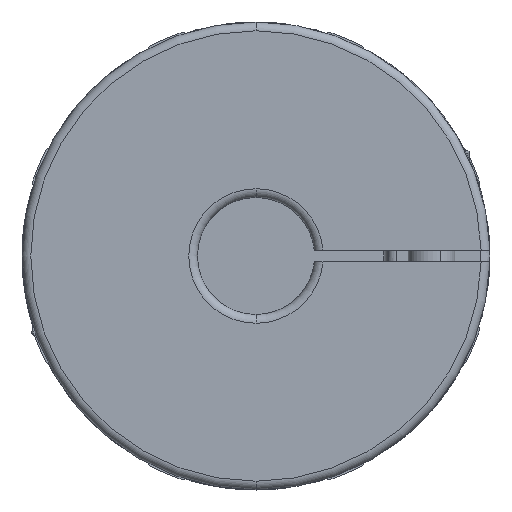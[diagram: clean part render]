
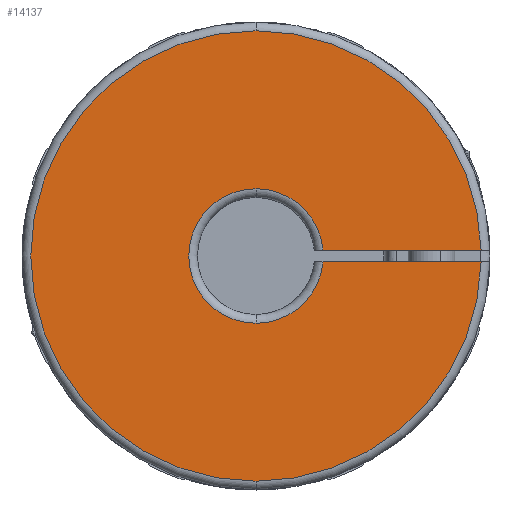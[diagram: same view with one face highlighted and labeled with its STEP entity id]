
A CAD part, left-side view. The second image highlights one B-rep face of the part: STEP entity #14137.
In plain terms, the highlighted planar face has unit normal (-1, 0, 0).
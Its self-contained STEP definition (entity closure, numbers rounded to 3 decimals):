
#254 = CARTESIAN_POINT ( 'NONE',  ( -33.2, 0., 0. ) ) ;
#366 = DIRECTION ( 'NONE',  ( 0., 0., 1. ) ) ;
#533 = CARTESIAN_POINT ( 'NONE',  ( -33.2, 0., -1. ) ) ;
#600 = ORIENTED_EDGE ( 'NONE', *, *, #6773, .T. ) ;
#835 = DIRECTION ( 'NONE',  ( 0., 0., -1. ) ) ;
#937 = AXIS2_PLACEMENT_3D ( 'NONE', #9160, #14123, #9808 ) ;
#967 = VERTEX_POINT ( 'NONE', #15115 ) ;
#970 = AXIS2_PLACEMENT_3D ( 'NONE', #3292, #7050, #835 ) ;
#1219 = VECTOR ( 'NONE', #12914, 1000. ) ;
#1274 = VERTEX_POINT ( 'NONE', #14000 ) ;
#1492 = CIRCLE ( 'NONE', #12943, 38.5 ) ;
#1527 = DIRECTION ( 'NONE',  ( -1., 0., 0. ) ) ;
#1991 = CIRCLE ( 'NONE', #5407, 11.5 ) ;
#2236 = AXIS2_PLACEMENT_3D ( 'NONE', #10162, #1527, #366 ) ;
#2349 = VERTEX_POINT ( 'NONE', #4623 ) ;
#3073 = CARTESIAN_POINT ( 'NONE',  ( -33.2, 0., 38.5 ) ) ;
#3243 = VERTEX_POINT ( 'NONE', #12927 ) ;
#3250 = VERTEX_POINT ( 'NONE', #3073 ) ;
#3292 = CARTESIAN_POINT ( 'NONE',  ( -33.2, 11.5, 0. ) ) ;
#3392 = VERTEX_POINT ( 'NONE', #12630 ) ;
#4209 = DIRECTION ( 'NONE',  ( -1., 0., 0. ) ) ;
#4316 = DIRECTION ( 'NONE',  ( -1., 0., 0. ) ) ;
#4602 = EDGE_LOOP ( 'NONE', ( #12549, #11990, #6137, #600, #9071, #14618, #10553, #12877 ) ) ;
#4623 = CARTESIAN_POINT ( 'NONE',  ( -33.2, 0., -38.5 ) ) ;
#5055 = CIRCLE ( 'NONE', #13895, 38.5 ) ;
#5249 = DIRECTION ( 'NONE',  ( -1., 0., 0. ) ) ;
#5407 = AXIS2_PLACEMENT_3D ( 'NONE', #12783, #6597, #14083 ) ;
#5515 = LINE ( 'NONE', #9173, #1219 ) ;
#5598 = DIRECTION ( 'NONE',  ( 0., 1., 0. ) ) ;
#5722 = DIRECTION ( 'NONE',  ( 0., 0., 1. ) ) ;
#5933 = AXIS2_PLACEMENT_3D ( 'NONE', #15368, #4209, #7214 ) ;
#6008 = EDGE_CURVE ( 'NONE', #3243, #12706, #11695, .T. ) ;
#6137 = ORIENTED_EDGE ( 'NONE', *, *, #10895, .T. ) ;
#6597 = DIRECTION ( 'NONE',  ( -1., 0., 0. ) ) ;
#6773 = EDGE_CURVE ( 'NONE', #3250, #2349, #5055, .T. ) ;
#7050 = DIRECTION ( 'NONE',  ( 1., 0., 0. ) ) ;
#7214 = DIRECTION ( 'NONE',  ( 0., 0., 1. ) ) ;
#7645 = VERTEX_POINT ( 'NONE', #15101 ) ;
#8383 = DIRECTION ( 'NONE',  ( 0., 0., 1. ) ) ;
#8424 = VECTOR ( 'NONE', #5598, 1000. ) ;
#8515 = CIRCLE ( 'NONE', #5933, 11.5 ) ;
#8705 = CARTESIAN_POINT ( 'NONE',  ( -33.2, -11.456, -1. ) ) ;
#9071 = ORIENTED_EDGE ( 'NONE', *, *, #15611, .T. ) ;
#9160 = CARTESIAN_POINT ( 'NONE',  ( -33.2, 0., 0. ) ) ;
#9173 = CARTESIAN_POINT ( 'NONE',  ( -33.2, 0., 1. ) ) ;
#9808 = DIRECTION ( 'NONE',  ( 0., 0., 1. ) ) ;
#10162 = CARTESIAN_POINT ( 'NONE',  ( -33.2, 0., 0. ) ) ;
#10553 = ORIENTED_EDGE ( 'NONE', *, *, #14152, .F. ) ;
#10666 = CARTESIAN_POINT ( 'NONE',  ( -33.2, 0., 0. ) ) ;
#10710 = FACE_OUTER_BOUND ( 'NONE', #4602, .T. ) ;
#10895 = EDGE_CURVE ( 'NONE', #7645, #3250, #1492, .T. ) ;
#11695 = LINE ( 'NONE', #533, #8424 ) ;
#11990 = ORIENTED_EDGE ( 'NONE', *, *, #14046, .T. ) ;
#12549 = ORIENTED_EDGE ( 'NONE', *, *, #15223, .F. ) ;
#12630 = CARTESIAN_POINT ( 'NONE',  ( -33.2, 0., 11.5 ) ) ;
#12706 = VERTEX_POINT ( 'NONE', #8705 ) ;
#12783 = CARTESIAN_POINT ( 'NONE',  ( -33.2, 0., 0. ) ) ;
#12877 = ORIENTED_EDGE ( 'NONE', *, *, #13592, .F. ) ;
#12914 = DIRECTION ( 'NONE',  ( 0., -1., 0. ) ) ;
#12927 = CARTESIAN_POINT ( 'NONE',  ( -33.2, -38.487, -1. ) ) ;
#12943 = AXIS2_PLACEMENT_3D ( 'NONE', #254, #5249, #5722 ) ;
#13592 = EDGE_CURVE ( 'NONE', #3392, #967, #1991, .T. ) ;
#13895 = AXIS2_PLACEMENT_3D ( 'NONE', #10666, #4316, #8383 ) ;
#14000 = CARTESIAN_POINT ( 'NONE',  ( -33.2, -11.456, 1. ) ) ;
#14046 = EDGE_CURVE ( 'NONE', #1274, #7645, #5515, .T. ) ;
#14083 = DIRECTION ( 'NONE',  ( 0., 0., 1. ) ) ;
#14123 = DIRECTION ( 'NONE',  ( -1., 0., 0. ) ) ;
#14137 = ADVANCED_FACE ( 'NONE', ( #10710 ), #15671, .F. ) ;
#14152 = EDGE_CURVE ( 'NONE', #967, #12706, #8515, .T. ) ;
#14206 = CIRCLE ( 'NONE', #2236, 11.5 ) ;
#14215 = CIRCLE ( 'NONE', #937, 38.5 ) ;
#14618 = ORIENTED_EDGE ( 'NONE', *, *, #6008, .T. ) ;
#15101 = CARTESIAN_POINT ( 'NONE',  ( -33.2, -38.487, 1. ) ) ;
#15115 = CARTESIAN_POINT ( 'NONE',  ( -33.2, 0., -11.5 ) ) ;
#15223 = EDGE_CURVE ( 'NONE', #1274, #3392, #14206, .T. ) ;
#15368 = CARTESIAN_POINT ( 'NONE',  ( -33.2, 0., 0. ) ) ;
#15611 = EDGE_CURVE ( 'NONE', #2349, #3243, #14215, .T. ) ;
#15671 = PLANE ( 'NONE',  #970 ) ;
